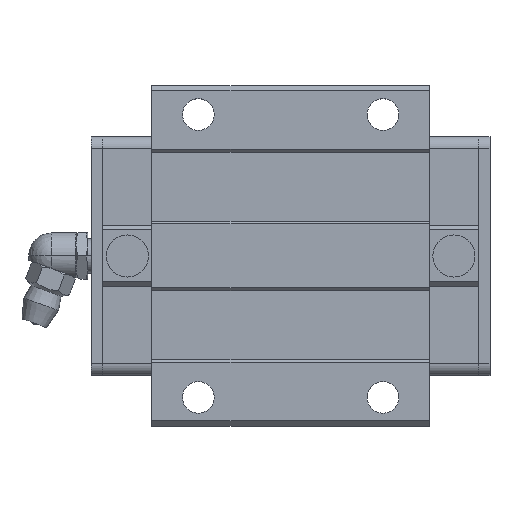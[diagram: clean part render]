
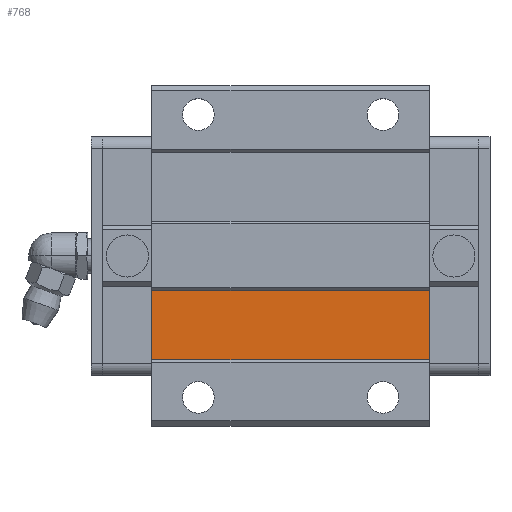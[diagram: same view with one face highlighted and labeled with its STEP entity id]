
A CAD part, top view. The second image highlights one B-rep face of the part: STEP entity #768.
In plain terms, the highlighted planar face has unit normal (0, 0, 1).
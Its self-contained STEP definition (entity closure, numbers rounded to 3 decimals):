
#729=CARTESIAN_POINT('POINT62',(58.6,-18.,21.55));
#730=VERTEX_POINT('VERTEX62',#729);
#731=CARTESIAN_POINT('POINT63',(58.6,-6.,21.55)
   );
#732=VERTEX_POINT('VERTEX63',#731);
#733=CARTESIAN_POINT('POS78',(58.6,-6.,21.55));
#734=DIRECTION('DIR116',(0.,1.,0.));
#735=VECTOR('VEC40',#734,1.);
#736=LINE('STRAIGHT40',#733,#735);
#737=EDGE_CURVE('EDGE82',#730,#732,#736,.T.);
#738=ORIENTED_EDGE('COEDGE111',*,*,#737,.T.);
#739=CARTESIAN_POINT('POINT64',(10.5,-6.,21.55)
   );
#740=VERTEX_POINT('VERTEX64',#739);
#741=CARTESIAN_POINT('POS79',(10.5,-6.,21.55));
#742=DIRECTION('DIR117',(1.,0.,0.));
#743=VECTOR('VEC41',#742,1.);
#744=LINE('STRAIGHT41',#741,#743);
#745=EDGE_CURVE('EDGE83',#740,#732,#744,.T.);
#746=ORIENTED_EDGE('COEDGE112',*,*,#745,.F.);
#747=CARTESIAN_POINT('POINT65',(10.5,-18.,21.55));
#748=VERTEX_POINT('VERTEX65',#747);
#749=CARTESIAN_POINT('POS80',(10.5,-6.,21.55));
#750=DIRECTION('DIR118',(0.,-1.,0.));
#751=VECTOR('VEC42',#750,1.);
#752=LINE('STRAIGHT42',#749,#751);
#753=EDGE_CURVE('EDGE84',#740,#748,#752,.T.);
#754=ORIENTED_EDGE('COEDGE113',*,*,#753,.T.);
#755=CARTESIAN_POINT('POS81',(10.5,-18.,21.55));
#756=DIRECTION('DIR119',(1.,0.,0.));
#757=VECTOR('VEC43',#756,1.);
#758=LINE('STRAIGHT43',#755,#757);
#759=EDGE_CURVE('EDGE85',#748,#730,#758,.T.);
#760=ORIENTED_EDGE('COEDGE114',*,*,#759,.T.);
#761=EDGE_LOOP('NONE',(#738,#746,#754,#760));
#762=FACE_BOUND('LOOP1',#761,.T.);
#763=CARTESIAN_POINT('POS82',(10.5,-18.,21.55));
#764=DIRECTION('DIR120',(0.,0.,1.));
#765=DIRECTION('DIR121',(1.,0.,0.));
#766=AXIS2_PLACEMENT_3D('AXIS39',#763,#764,#765);
#767=PLANE('PLANE11',#766);
#768=ADVANCED_FACE('FACE24',(#762),#767,.T.);
